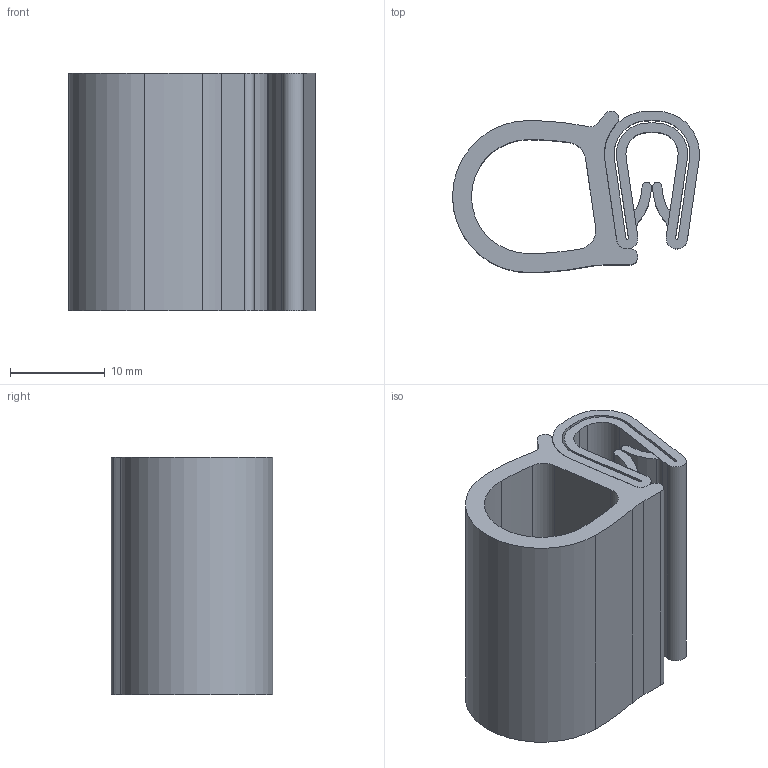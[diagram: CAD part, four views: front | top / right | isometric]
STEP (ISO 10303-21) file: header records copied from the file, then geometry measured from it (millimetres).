
FILE_DESCRIPTION((''),'2;1');
FILE_NAME('1011-22','2011-05-31T',('ndf'),('EMKA Beschlagteile GmbH & CO KG'),'PRO/ENGINEER BY PARAMETRIC TECHNOLOGY CORPORATION, 2010330','PRO/ENGINEER BY PARAMETRIC TECHNOLOGY CORPORATION, 2010330','');
FILE_SCHEMA(('AUTOMOTIVE_DESIGN { 1 2 10303 214 0 1 1 1 }'));
Length unit declared in the file: millimetre
Products named in the file (1): 1011-22
Bounding box: 26 x 17 x 25 mm (x, y, z)
Volume: 4490.6 mm3; surface area: 6499.7 mm2
Topology: 2 solids, 2 shells, 60 faces, 162 edges, 108 vertices
Faces by surface type: cylinder 41, plane 19
Entity records: 2753 total; most frequent: DIRECTION 364, CARTESIAN_POINT 332, ORIENTED_EDGE 324, PRESENTATION_STYLE_ASSIGNMENT 187, STYLED_ITEM 164, CURVE_STYLE 162, EDGE_CURVE 162, AXIS2_PLACEMENT_3D 142
